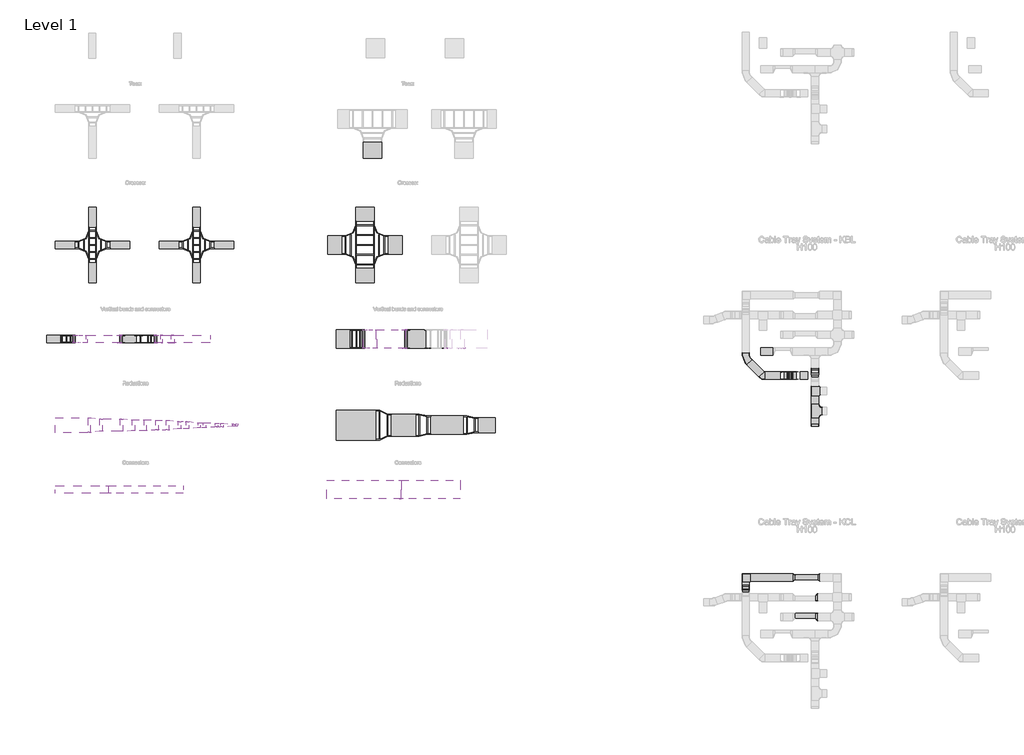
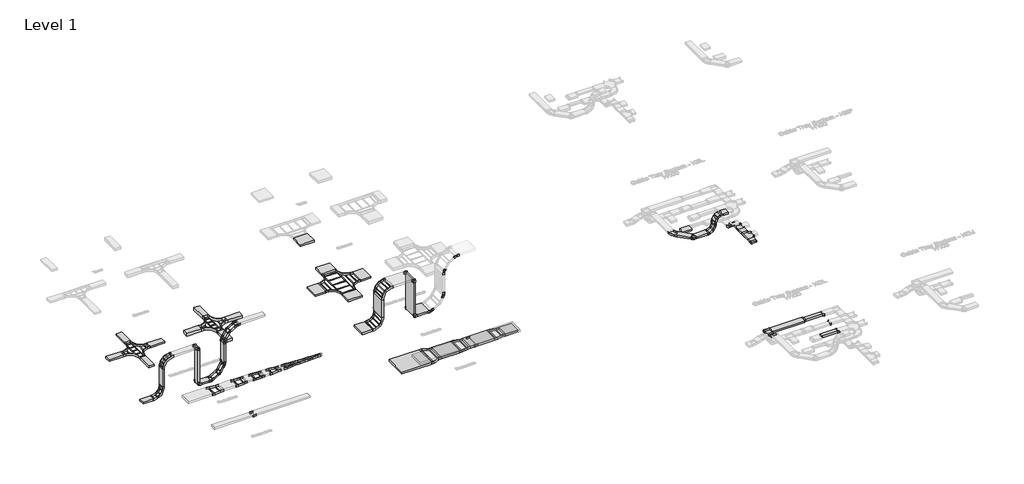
# One storey, part 21 of 106: 67 cable carrier fittings, 54 cable carrier segments.
"""IFC4 building model written with IfcOpenShell, lengths in millimetres."""

from ifc_helpers import new_model, si_unit, frame, origin, place, context, project, spatial, polyline, outline, extrude, transform, mapped, element, save
from components import cable_carrier_fitting_f33f8219, cable_carrier_fitting_39317766, cable_carrier_fitting_df6db4d9, cable_carrier_fitting_7434552b, cable_carrier_fitting_97db74c1, cable_carrier_fitting_00049439, cable_carrier_fitting_cb057536, cable_carrier_fitting_425c15d6, cable_carrier_fitting_a142babc, cable_carrier_fitting_4de00f68, cable_carrier_fitting_ece48d34, cable_carrier_fitting_d4f283aa, cable_carrier_fitting_389af67d, cable_carrier_fitting_ab346bf8, cable_carrier_fitting_c163f1ca, cable_carrier_fitting_32826c86, cable_carrier_fitting_42195290, cable_carrier_fitting_1d3f857e, cable_carrier_fitting_0afdfe74, cable_carrier_fitting_2d5aa353, cable_carrier_fitting_83230dc4, cable_carrier_fitting_3cbe9e62, cable_carrier_fitting_c86838e9, cable_carrier_fitting_985dcf24, cable_carrier_fitting_ca5a2d19, cable_carrier_fitting_d3670504, cable_carrier_fitting_b9b8e363, cable_carrier_fitting_e218c750, cable_carrier_fitting_26a6f095, cable_carrier_fitting_1055d29a, cable_carrier_fitting_ad9a9dc8, cable_carrier_fitting_d731d6d4, cable_carrier_fitting_22750d93, cable_carrier_fitting_6bd93874, cable_carrier_fitting_e1430108, cable_carrier_fitting_c6f54cfa, cable_carrier_fitting_92e6b0da, cable_carrier_fitting_f50788b4, cable_carrier_fitting_851eb94e

model = new_model("IFC4")

# Units and contexts
model_context = context("Model", 3, world=origin())
ifc_project = project(units=[si_unit("LENGTHUNIT", "METRE", prefix="MILLI")], contexts=[model_context])

# Site, building, storey
site = spatial("IfcSite", under=ifc_project)
building = spatial("IfcBuilding", under=site)
storey = spatial("IfcBuildingStorey", under=building, Name="Level 1", Elevation=0.0)

# Cable carrier fittings
placement = place(None, origin())
cable_carrier_fitting_shape = cable_carrier_fitting_f33f8219(model_context)
element("IfcCableCarrierFitting", 1, ObjectType="BAKS_LDLS_BEND_Adjustable vertical bend element_ELDS : ELDSP_H100", at=placement, inside=storey, context=model_context, shape_type="MappedRepresentation", body=[
    mapped(cable_carrier_fitting_shape, transform((132442.1548019, 56206.9805429, 55.0), x_axis=(0.8660254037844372, 0.0, 0.5000000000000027), y_axis=(0.0, 1.0, 0.0), z_axis=(-0.5000000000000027, 0.0, 0.8660254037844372))),
])
element("IfcCableCarrierFitting", 2, ObjectType="BAKS_LDLS_BEND_Adjustable vertical bend element_ELDS : ELDSP_H100", at=placement, inside=storey, context=model_context, shape_type="MappedRepresentation", body=[
    mapped(cable_carrier_fitting_shape, transform((133125.1675038, 56206.9805429, 738.0127019), x_axis=(-0.49999999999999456, 0.0, -0.8660254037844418), y_axis=(0.0, -1.0, 0.0), z_axis=(-0.8660254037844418, 0.0, 0.49999999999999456))),
])
element("IfcCableCarrierFitting", 3, ObjectType="BAKS_LDLS_BEND_Adjustable vertical bend element_ELDS : ELDSP_H100", at=placement, inside=storey, context=model_context, shape_type="MappedRepresentation", body=[
    mapped(cable_carrier_fitting_shape, transform((133125.1675038, 56206.9805429, 2053.6237578), x_axis=(0.5000000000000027, 0.0, 0.8660254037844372), y_axis=(0.0, -1.0, 0.0), z_axis=(0.8660254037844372, 0.0, -0.5000000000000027))),
])
element("IfcCableCarrierFitting", 4, ObjectType="BAKS_LDLS_BEND_Adjustable vertical bend element_ELDS : ELDSP_H100", at=placement, inside=storey, context=model_context, shape_type="MappedRepresentation", body=[
    mapped(cable_carrier_fitting_shape, transform((133808.1802057, 56206.9805429, 2736.6364597), x_axis=(-0.8660254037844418, 0.0, -0.49999999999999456), y_axis=(0.0, 1.0, 0.0), z_axis=(0.49999999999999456, 0.0, -0.8660254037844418))),
])
cable_carrier_fitting_2_shape = cable_carrier_fitting_39317766(model_context)
element("IfcCableCarrierFitting", 5, ObjectType="BAKS_LD_CROSS_Horizontal cross over_CZDV : CZDVP_H100", at=placement, inside=storey, context=model_context, shape_type="MappedRepresentation", body=[
    mapped(cable_carrier_fitting_2_shape, transform((130580.0391708, 60009.3740469, 55.0), x_axis=(0.0, -1.0, 0.0), y_axis=(1.0, 0.0, 0.0), z_axis=(0.0, 0.0, 1.0))),
])
cable_carrier_fitting_3_shape = cable_carrier_fitting_df6db4d9(model_context)
element("IfcCableCarrierFitting", 6, ObjectType="BAKS_LD_CROSS_Horizontal cross over_CZDV : CZDVP_H150", at=placement, inside=storey, context=model_context, shape_type="MappedRepresentation", body=[
    mapped(cable_carrier_fitting_3_shape, transform((134780.1043169, 60009.3740469, 55.0), x_axis=(0.0, -1.0, 0.0), y_axis=(1.0, 0.0, 0.0), z_axis=(0.0, 0.0, 1.0))),
])
cable_carrier_fitting_4_shape = cable_carrier_fitting_7434552b(model_context)
element("IfcCableCarrierFitting", 7, ObjectType="BAKS_LD_RED_Straight reducer_RDSV : RDSVP_H100", at=placement, inside=storey, context=model_context, shape_type="MappedRepresentation", body=[
    mapped(cable_carrier_fitting_4_shape, transform((133540.0391708, 52730.0357179, 2155.0), x_axis=(1.0, 0.0, 0.0), y_axis=(0.0, 1.0, 0.0), z_axis=(0.0, 0.0, 1.0))),
])
cable_carrier_fitting_5_shape = cable_carrier_fitting_97db74c1(model_context)
element("IfcCableCarrierFitting", 8, ObjectType="BAKS_LD_CONN_Straight connector_LDC : LDC_H100", at=placement, inside=storey, context=model_context, shape_type="MappedRepresentation", body=[
    mapped(cable_carrier_fitting_5_shape, transform((131230.0391708, 49980.0357179, 2155.0), x_axis=(1.0, 0.0, 0.0), y_axis=(0.0, 1.0, 0.0), z_axis=(0.0, 0.0, 1.0))),
])
element("IfcCableCarrierFitting", 9, ObjectType="BAKS_LD_CONN_Straight connector_LDC : LDC_H100", at=placement, inside=storey, context=model_context, shape_type="MappedRepresentation", body=[
    mapped(cable_carrier_fitting_5_shape, transform((143050.0391708, 49755.0357179, 2155.0), x_axis=(1.0, 0.0, 0.0), y_axis=(0.0, 1.0, 0.0), z_axis=(0.0, 0.0, 1.0))),
])
cable_carrier_fitting_6_shape = cable_carrier_fitting_00049439(model_context)
element("IfcCableCarrierFitting", 10, ObjectType="BAKS_LD_CONN_Straight connector_LDC : LDC_H100", at=placement, inside=storey, context=model_context, shape_type="MappedRepresentation", body=[
    mapped(cable_carrier_fitting_6_shape, transform((131230.0391708, 50280.0357179, 2155.0), x_axis=(1.0, 0.0, 0.0), y_axis=(0.0, 1.0, 0.0), z_axis=(0.0, 0.0, 1.0))),
])
element("IfcCableCarrierFitting", 11, ObjectType="BAKS_LD_CONN_Straight connector_LDC : LDC_H100", at=placement, inside=storey, context=model_context, shape_type="MappedRepresentation", body=[
    mapped(cable_carrier_fitting_6_shape, transform((143050.0391708, 50505.0357179, 2155.0), x_axis=(1.0, 0.0, 0.0), y_axis=(0.0, 1.0, 0.0), z_axis=(0.0, 0.0, 1.0))),
])
cable_carrier_fitting_7_shape = cable_carrier_fitting_cb057536(model_context)
element("IfcCableCarrierFitting", 12, ObjectType="BAKS_BEND_Adjustable vertical bend element_EL : ELP_H100", at=placement, inside=storey, context=model_context, shape_type="MappedRepresentation", body=[
    mapped(cable_carrier_fitting_7_shape, transform((158633.2340999, 54731.3714214, 322.7153903), x_axis=(0.4999999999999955, 0.0, 0.8660254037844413), y_axis=(0.0, 1.0, 0.0), z_axis=(-0.8660254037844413, 0.0, 0.4999999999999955))),
])
element("IfcCableCarrierFitting", 13, ObjectType="BAKS_BEND_Adjustable vertical bend element_EL : ELP_H100", at=placement, inside=storey, context=model_context, shape_type="MappedRepresentation", body=[
    mapped(cable_carrier_fitting_7_shape, transform((158436.5219776, 54731.3714214, 223.0), x_axis=(0.8660254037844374, 0.0, 0.5000000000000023), y_axis=(0.0, 1.0, 0.0), z_axis=(-0.5000000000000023, 0.0, 0.8660254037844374))),
])
element("IfcCableCarrierFitting", 14, ObjectType="BAKS_BEND_Adjustable vertical bend element_EL : ELP_H100", at=placement, inside=storey, context=model_context, shape_type="MappedRepresentation", body=[
    mapped(cable_carrier_fitting_7_shape, transform((158841.4494902, 54731.3714214, 936.9011537), x_axis=(0.8660254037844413, 0.0, 0.4999999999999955), y_axis=(0.0, -1.0, 0.0), z_axis=(0.4999999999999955, 0.0, -0.8660254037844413))),
])
element("IfcCableCarrierFitting", 15, ObjectType="BAKS_BEND_Adjustable vertical bend element_EL : ELP_H100", at=placement, inside=storey, context=model_context, shape_type="MappedRepresentation", body=[
    mapped(cable_carrier_fitting_7_shape, transform((158741.7340999, 54731.3714214, 740.1890314), x_axis=(0.5000000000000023, 0.0, 0.8660254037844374), y_axis=(0.0, -1.0, 0.0), z_axis=(0.8660254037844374, 0.0, -0.5000000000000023))),
])
cable_carrier_fitting_8_shape = cable_carrier_fitting_425c15d6(model_context)
element("IfcCableCarrierFitting", 16, ObjectType="BAKS_LD_BEND_Articulated connector_LGC : LGC_H100", at=placement, inside=storey, context=model_context, shape_type="MappedRepresentation", body=[
    mapped(cable_carrier_fitting_8_shape, transform((131725.1675038, 56356.9805429, 2155.0), x_axis=(1.0, 0.0, 0.0), y_axis=(0.0, 0.0, -1.0), z_axis=(0.0, 1.0, 0.0))),
])
element("IfcCableCarrierFitting", 17, ObjectType="BAKS_LD_BEND_Articulated connector_LGC : LGC_H100", at=placement, inside=storey, context=model_context, shape_type="MappedRepresentation", body=[
    mapped(cable_carrier_fitting_8_shape, transform((131725.1675038, 56056.9805429, 55.0), x_axis=(0.0, 0.0, -1.0), y_axis=(1.0, 0.0, 0.0), z_axis=(0.0, -1.0, 0.0))),
])
element("IfcCableCarrierFitting", 18, ObjectType="BAKS_LD_BEND_Articulated connector_LGC : LGC_H100", at=placement, inside=storey, context=model_context, shape_type="MappedRepresentation", body=[
    mapped(cable_carrier_fitting_8_shape, transform((143240.1675038, 56581.9805429, 2155.0), x_axis=(1.0, 0.0, 0.0), y_axis=(0.0, 0.0, -1.0), z_axis=(0.0, 1.0, 0.0))),
])
element("IfcCableCarrierFitting", 19, ObjectType="BAKS_LD_BEND_Articulated connector_LGC : LGC_H100", at=placement, inside=storey, context=model_context, shape_type="MappedRepresentation", body=[
    mapped(cable_carrier_fitting_8_shape, transform((143240.1675038, 55831.9805429, 55.0), x_axis=(0.0, 0.0, -1.0), y_axis=(1.0, 0.0, 0.0), z_axis=(0.0, -1.0, 0.0))),
])
cable_carrier_fitting_9_shape = cable_carrier_fitting_a142babc(model_context)
element("IfcCableCarrierFitting", 20, ObjectType="BAKS_LD_BEND_Articulated connector_LGC : LGC_H100", at=placement, inside=storey, context=model_context, shape_type="MappedRepresentation", body=[
    mapped(cable_carrier_fitting_9_shape, transform((131725.1675038, 56056.9805429, 2155.0), x_axis=(1.0, 0.0, 0.0), y_axis=(0.0, 0.0, 1.0), z_axis=(0.0, -1.0, 0.0))),
])
element("IfcCableCarrierFitting", 21, ObjectType="BAKS_LD_BEND_Articulated connector_LGC : LGC_H100", at=placement, inside=storey, context=model_context, shape_type="MappedRepresentation", body=[
    mapped(cable_carrier_fitting_9_shape, transform((131725.1675038, 56356.9805429, 55.0), x_axis=(0.0, 0.0, -1.0), y_axis=(-1.0, 0.0, 0.0), z_axis=(0.0, 1.0, 0.0))),
])
element("IfcCableCarrierFitting", 22, ObjectType="BAKS_LD_BEND_Articulated connector_LGC : LGC_H100", at=placement, inside=storey, context=model_context, shape_type="MappedRepresentation", body=[
    mapped(cable_carrier_fitting_9_shape, transform((143240.1675038, 55831.9805429, 2155.0), x_axis=(1.0, 0.0, 0.0), y_axis=(0.0, 0.0, 1.0), z_axis=(0.0, -1.0, 0.0))),
])
element("IfcCableCarrierFitting", 23, ObjectType="BAKS_LD_BEND_Articulated connector_LGC : LGC_H100", at=placement, inside=storey, context=model_context, shape_type="MappedRepresentation", body=[
    mapped(cable_carrier_fitting_9_shape, transform((143240.1675038, 56581.9805429, 55.0), x_axis=(0.0, 0.0, -1.0), y_axis=(-1.0, 0.0, 0.0), z_axis=(0.0, 1.0, 0.0))),
])
cable_carrier_fitting_10_shape = cable_carrier_fitting_4de00f68(model_context)
element("IfcCableCarrierFitting", 24, ObjectType="BAKS_LD_BEND_Articulated connector_LGC : LGC_H100", at=placement, inside=storey, context=model_context, shape_type="MappedRepresentation", body=[
    mapped(cable_carrier_fitting_10_shape, transform((132442.1548019, 56056.9805429, 55.0), x_axis=(1.0, 0.0, 0.0), y_axis=(0.0, 0.0, 1.0), z_axis=(0.0, -1.0, 0.0))),
])
element("IfcCableCarrierFitting", 25, ObjectType="BAKS_LD_BEND_Articulated connector_LGC : LGC_H100", at=placement, inside=storey, context=model_context, shape_type="MappedRepresentation", body=[
    mapped(cable_carrier_fitting_10_shape, transform((133125.1675038, 56056.9805429, 738.0127019), x_axis=(0.49999999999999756, 0.0, 0.8660254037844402), y_axis=(-0.8660254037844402, 0.0, 0.49999999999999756), z_axis=(0.0, -1.0, 0.0))),
])
element("IfcCableCarrierFitting", 26, ObjectType="BAKS_LD_BEND_Articulated connector_LGC : LGC_H100", at=placement, inside=storey, context=model_context, shape_type="MappedRepresentation", body=[
    mapped(cable_carrier_fitting_10_shape, transform((133125.1675038, 56356.9805429, 2053.6237578), x_axis=(0.0, 0.0, 1.0), y_axis=(1.0, 0.0, 0.0), z_axis=(0.0, 1.0, 0.0))),
])
element("IfcCableCarrierFitting", 27, ObjectType="BAKS_LD_BEND_Articulated connector_LGC : LGC_H100", at=placement, inside=storey, context=model_context, shape_type="MappedRepresentation", body=[
    mapped(cable_carrier_fitting_10_shape, transform((133808.1802057, 56356.9805429, 2736.6364597), x_axis=(0.8660254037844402, 0.0, 0.49999999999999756), y_axis=(0.49999999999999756, 0.0, -0.8660254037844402), z_axis=(0.0, 1.0, 0.0))),
])
element("IfcCableCarrierFitting", 28, ObjectType="BAKS_LD_BEND_Articulated connector_LGC : LGC_H100", at=placement, inside=storey, context=model_context, shape_type="MappedRepresentation", body=[
    mapped(cable_carrier_fitting_10_shape, transform((144142.1548019, 55831.9805429, 55.0), x_axis=(1.0, 0.0, 0.0), y_axis=(0.0, 0.0, 1.0), z_axis=(0.0, -1.0, 0.0))),
])
element("IfcCableCarrierFitting", 29, ObjectType="BAKS_LD_BEND_Articulated connector_LGC : LGC_H100", at=placement, inside=storey, context=model_context, shape_type="MappedRepresentation", body=[
    mapped(cable_carrier_fitting_10_shape, transform((144825.1675038, 55831.9805429, 738.0127019), x_axis=(0.49999999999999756, 0.0, 0.8660254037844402), y_axis=(-0.8660254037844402, 0.0, 0.49999999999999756), z_axis=(0.0, -1.0, 0.0))),
])
cable_carrier_fitting_11_shape = cable_carrier_fitting_ece48d34(model_context)
element("IfcCableCarrierFitting", 30, ObjectType="BAKS_LD_BEND_Articulated connector_LGC : LGC_H100", at=placement, inside=storey, context=model_context, shape_type="MappedRepresentation", body=[
    mapped(cable_carrier_fitting_11_shape, transform((133125.1675038, 56356.9805429, 738.0127019), x_axis=(0.49999999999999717, 0.0, 0.8660254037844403), y_axis=(0.8660254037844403, 0.0, -0.49999999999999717), z_axis=(0.0, 1.0, 0.0))),
])
element("IfcCableCarrierFitting", 31, ObjectType="BAKS_LD_BEND_Articulated connector_LGC : LGC_H100", at=placement, inside=storey, context=model_context, shape_type="MappedRepresentation", body=[
    mapped(cable_carrier_fitting_11_shape, transform((132442.1548019, 56356.9805429, 55.0), x_axis=(1.0, 0.0, 0.0), y_axis=(0.0, 0.0, -1.0), z_axis=(0.0, 1.0, 0.0))),
])
element("IfcCableCarrierFitting", 32, ObjectType="BAKS_LD_BEND_Articulated connector_LGC : LGC_H100", at=placement, inside=storey, context=model_context, shape_type="MappedRepresentation", body=[
    mapped(cable_carrier_fitting_11_shape, transform((133808.1802057, 56056.9805429, 2736.6364597), x_axis=(0.8660254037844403, 0.0, 0.49999999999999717), y_axis=(-0.49999999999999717, 0.0, 0.8660254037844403), z_axis=(0.0, -1.0, 0.0))),
])
element("IfcCableCarrierFitting", 33, ObjectType="BAKS_LD_BEND_Articulated connector_LGC : LGC_H100", at=placement, inside=storey, context=model_context, shape_type="MappedRepresentation", body=[
    mapped(cable_carrier_fitting_11_shape, transform((133125.1675038, 56056.9805429, 2053.6237578), x_axis=(0.0, 0.0, 1.0), y_axis=(-1.0, 0.0, 0.0), z_axis=(0.0, -1.0, 0.0))),
])
element("IfcCableCarrierFitting", 34, ObjectType="BAKS_LD_BEND_Articulated connector_LGC : LGC_H100", at=placement, inside=storey, context=model_context, shape_type="MappedRepresentation", body=[
    mapped(cable_carrier_fitting_11_shape, transform((145508.1802057, 55831.9805429, 2736.6364597), x_axis=(0.8660254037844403, 0.0, 0.4999999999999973), y_axis=(-0.4999999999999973, 0.0, 0.8660254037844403), z_axis=(0.0, -1.0, 0.0))),
])
element("IfcCableCarrierFitting", 35, ObjectType="BAKS_LD_BEND_Articulated connector_LGC : LGC_H100", at=placement, inside=storey, context=model_context, shape_type="MappedRepresentation", body=[
    mapped(cable_carrier_fitting_11_shape, transform((144825.1675038, 55831.9805429, 2053.6237578), x_axis=(0.0, 0.0, 1.0), y_axis=(-1.0, 0.0, 0.0), z_axis=(0.0, -1.0, 0.0))),
])
cable_carrier_fitting_12_shape = cable_carrier_fitting_d4f283aa(model_context)
element("IfcCableCarrierFitting", 36, ObjectType="BAKS_Reducer : RK(S/L/P)J_H100", at=placement, inside=storey, context=model_context, shape_type="MappedRepresentation", body=[
    mapped(cable_carrier_fitting_12_shape, transform((159753.8329462, 52694.2974728, 432.5277378), x_axis=(0.0, 1.0, 0.0), y_axis=(-1.0, 0.0, 0.0), z_axis=(0.0, 0.0, 1.0))),
])
cable_carrier_fitting_13_shape = cable_carrier_fitting_389af67d(model_context)
element("IfcCableCarrierFitting", 37, ObjectType="BAKS_Reducer : RK(S/L/P)J_H100", at=placement, inside=storey, context=model_context, shape_type="MappedRepresentation", body=[
    mapped(cable_carrier_fitting_13_shape, transform((158856.8329462, 46580.8714214, 0.0), x_axis=(1.0, 0.0, 0.0), y_axis=(0.0, 1.0, 0.0), z_axis=(0.0, 0.0, 1.0))),
])
cable_carrier_fitting_14_shape = cable_carrier_fitting_ab346bf8(model_context)
element("IfcCableCarrierFitting", 38, ObjectType="BAKS_Reducer : RK(S/L/P)J_H100", at=placement, inside=storey, context=model_context, shape_type="MappedRepresentation", body=[
    mapped(cable_carrier_fitting_14_shape, transform((159856.8329462, 46580.8714214, 0.0), x_axis=(1.0, 0.0, 0.0), y_axis=(0.0, 1.0, 0.0), z_axis=(0.0, 0.0, 1.0))),
])
cable_carrier_fitting_15_shape = cable_carrier_fitting_c163f1ca(model_context)
element("IfcCableCarrierFitting", 39, ObjectType="BAKS_Reducer : RK(S/L/P)J_H100", at=placement, inside=storey, context=model_context, shape_type="MappedRepresentation", body=[
    mapped(cable_carrier_fitting_15_shape, transform((159761.8329462, 45730.8714214, 0.0), x_axis=(1.0, 0.0, 0.0), y_axis=(0.0, 1.0, 0.0), z_axis=(0.0, 0.0, 1.0))),
])
cable_carrier_fitting_16_shape = cable_carrier_fitting_32826c86(model_context)
element("IfcCableCarrierFitting", 40, ObjectType="BAKS_Reducer : RK(S/L/P)J_H100", at=placement, inside=storey, context=model_context, shape_type="MappedRepresentation", body=[
    mapped(cable_carrier_fitting_16_shape, transform((159761.8329462, 45030.8714214, 0.0), x_axis=(1.0, 0.0, 0.0), y_axis=(0.0, 1.0, 0.0), z_axis=(0.0, 0.0, 1.0))),
])
cable_carrier_fitting_17_shape = cable_carrier_fitting_42195290(model_context)
element("IfcCableCarrierFitting", 41, ObjectType="BAKS_Horizontal bend : KKJ/KKMJ_H100", at=placement, inside=storey, context=model_context, shape_type="MappedRepresentation", body=[
    mapped(cable_carrier_fitting_17_shape, transform((156956.8329462, 46580.8714214, 0.0), x_axis=(-1.0, 0.0, 0.0), y_axis=(0.0, -1.0, 0.0), z_axis=(0.0, 0.0, 1.0))),
])
cable_carrier_fitting_18_shape = cable_carrier_fitting_1d3f857e(model_context)
element("IfcCableCarrierFitting", 42, ObjectType="BAKS_Horizontal bend radius : KKPJ/KKMPJ_H100", at=placement, inside=storey, context=model_context, shape_type="MappedRepresentation", body=[
    mapped(cable_carrier_fitting_18_shape, transform((156956.8329462, 55430.8714214, 235.0), x_axis=(0.0, -1.0, 0.0), y_axis=(1.0, 0.0, 0.0), z_axis=(0.0, 0.0, 1.0))),
])
cable_carrier_fitting_19_shape = cable_carrier_fitting_0afdfe74(model_context)
element("IfcCableCarrierFitting", 43, ObjectType="BAKS_Horizontal tee : TKJ_H100", at=placement, inside=storey, context=model_context, shape_type="MappedRepresentation", body=[
    mapped(cable_carrier_fitting_19_shape, transform((159753.8329462, 54103.8631068, 432.5277378), x_axis=(0.0, 1.0, 0.0), y_axis=(-1.0, 0.0, 0.0), z_axis=(0.0, 0.0, 1.0))),
])
cable_carrier_fitting_20_shape = cable_carrier_fitting_2d5aa353(model_context)
element("IfcCableCarrierFitting", 44, ObjectType="BAKS_BEND_Articulated connector_LGP : LGP_H100", at=placement, inside=storey, context=model_context, shape_type="MappedRepresentation", body=[
    mapped(cable_carrier_fitting_20_shape, transform((158457.3065873, 54581.3714214, 235.0), x_axis=(1.0, 0.0, 0.0), y_axis=(0.0, 0.0, 1.0), z_axis=(0.0, -1.0, 0.0))),
])
element("IfcCableCarrierFitting", 45, ObjectType="BAKS_BEND_Articulated connector_LGP : LGP_H100", at=placement, inside=storey, context=model_context, shape_type="MappedRepresentation", body=[
    mapped(cable_carrier_fitting_20_shape, transform((158753.7340999, 54881.3714214, 760.9736411), x_axis=(0.0, 0.0, 1.0), y_axis=(1.0, 0.0, 0.0), z_axis=(0.0, 1.0, 0.0))),
])
cable_carrier_fitting_21_shape = cable_carrier_fitting_83230dc4(model_context)
element("IfcCableCarrierFitting", 46, ObjectType="BAKS_BEND_Articulated connector_LGP : LGP_H100", at=placement, inside=storey, context=model_context, shape_type="MappedRepresentation", body=[
    mapped(cable_carrier_fitting_21_shape, transform((158753.7340999, 54581.3714214, 531.4275126), x_axis=(0.4999999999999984, 0.0, 0.8660254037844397), y_axis=(-0.8660254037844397, 0.0, 0.4999999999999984), z_axis=(0.0, -1.0, 0.0))),
])
cable_carrier_fitting_22_shape = cable_carrier_fitting_3cbe9e62(model_context)
element("IfcCableCarrierFitting", 47, ObjectType="BAKS_BEND_Articulated connector_LGP : LGP_H100", at=placement, inside=storey, context=model_context, shape_type="MappedRepresentation", body=[
    mapped(cable_carrier_fitting_22_shape, transform((158753.7340999, 54881.3714214, 531.4275126), x_axis=(0.4999999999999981, 0.0, 0.8660254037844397), y_axis=(0.8660254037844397, 0.0, -0.4999999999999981), z_axis=(0.0, 1.0, 0.0))),
])
cable_carrier_fitting_23_shape = cable_carrier_fitting_c86838e9(model_context)
element("IfcCableCarrierFitting", 48, ObjectType="BAKS_BEND_Articulated connector_LGP : LGP_H100", at=placement, inside=storey, context=model_context, shape_type="MappedRepresentation", body=[
    mapped(cable_carrier_fitting_23_shape, transform((158457.3065873, 54881.3714214, 235.0), x_axis=(1.0, 0.0, 0.0), y_axis=(0.0, 0.0, -1.0), z_axis=(0.0, 1.0, 0.0))),
])
element("IfcCableCarrierFitting", 49, ObjectType="BAKS_BEND_Articulated connector_LGP : LGP_H100", at=placement, inside=storey, context=model_context, shape_type="MappedRepresentation", body=[
    mapped(cable_carrier_fitting_23_shape, transform((158753.7340999, 54581.3714214, 760.9736411), x_axis=(0.0, 0.0, 1.0), y_axis=(-1.0, 0.0, 0.0), z_axis=(0.0, -1.0, 0.0))),
])
cable_carrier_fitting_24_shape = cable_carrier_fitting_985dcf24(model_context)
element("IfcCableCarrierFitting", 50, ObjectType="BAKS_Horizontal bend : KKJ/KKMJ_H100", at=placement, inside=storey, context=model_context, shape_type="MappedRepresentation", body=[
    mapped(cable_carrier_fitting_24_shape, transform((157656.3329462, 54731.3714214, 235.0), x_axis=(0.707106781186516, -0.707106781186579, 0.0), y_axis=(0.707106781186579, 0.707106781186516, 0.0), z_axis=(0.0, 0.0, 1.0))),
])
cable_carrier_fitting_25_shape = cable_carrier_fitting_ca5a2d19(model_context)
element("IfcCableCarrierFitting", 51, ObjectType="BAKS_Horizontal tee radius : TKPJ_H100", at=placement, inside=storey, context=model_context, shape_type="MappedRepresentation", body=[
    mapped(cable_carrier_fitting_25_shape, transform((159753.8329462, 53296.5802898, 432.5277378), x_axis=(0.0, 1.0, 0.0), y_axis=(-1.0, 0.0, 0.0), z_axis=(0.0, 0.0, 1.0))),
])
cable_carrier_fitting_26_shape = cable_carrier_fitting_d3670504(model_context)
element("IfcCableCarrierFitting", 52, ObjectType="BAKS_LD_RED_Straight reducer_RDSV : RDSVP_H100", at=placement, inside=storey, context=model_context, shape_type="MappedRepresentation", body=[
    mapped(cable_carrier_fitting_26_shape, transform((130380.0391708, 52730.0357179, 2155.0), x_axis=(1.0, 0.0, 0.0), y_axis=(0.0, 1.0, 0.0), z_axis=(0.0, 0.0, 1.0))),
])
cable_carrier_fitting_27_shape = cable_carrier_fitting_b9b8e363(model_context)
element("IfcCableCarrierFitting", 53, ObjectType="BAKS_LD_RED_Straight reducer_RDSV : RDSVP_H100", at=placement, inside=storey, context=model_context, shape_type="MappedRepresentation", body=[
    mapped(cable_carrier_fitting_27_shape, transform((132300.0391708, 52730.0357179, 2155.0), x_axis=(-1.0, 0.0, 0.0), y_axis=(0.0, -1.0, 0.0), z_axis=(0.0, 0.0, 1.0))),
])
cable_carrier_fitting_28_shape = cable_carrier_fitting_e218c750(model_context)
element("IfcCableCarrierFitting", 54, ObjectType="BAKS_LD_RED_Straight reducer_RDSV : RDSVP_H100", at=placement, inside=storey, context=model_context, shape_type="MappedRepresentation", body=[
    mapped(cable_carrier_fitting_28_shape, transform((132640.0391708, 52730.0357179, 2155.0), x_axis=(1.0, 0.0, 0.0), y_axis=(0.0, 1.0, 0.0), z_axis=(0.0, 0.0, 1.0))),
])
cable_carrier_fitting_29_shape = cable_carrier_fitting_26a6f095(model_context)
element("IfcCableCarrierFitting", 55, ObjectType="BAKS_LD_RED_Straight reducer_RDSV : RDSVP_H100", at=placement, inside=storey, context=model_context, shape_type="MappedRepresentation", body=[
    mapped(cable_carrier_fitting_29_shape, transform((134340.0391708, 52730.0357179, 2155.0), x_axis=(1.0, 0.0, 0.0), y_axis=(0.0, 1.0, 0.0), z_axis=(0.0, 0.0, 1.0))),
])
cable_carrier_fitting_30_shape = cable_carrier_fitting_1055d29a(model_context)
element("IfcCableCarrierFitting", 56, ObjectType="BAKS_LD_RED_Straight reducer_RDSV : RDSVP_H100", at=placement, inside=storey, context=model_context, shape_type="MappedRepresentation", body=[
    mapped(cable_carrier_fitting_30_shape, transform((135040.0391708, 52730.0357179, 2155.0), x_axis=(1.0, 0.0, 0.0), y_axis=(0.0, 1.0, 0.0), z_axis=(0.0, 0.0, 1.0))),
])
cable_carrier_fitting_31_shape = cable_carrier_fitting_ad9a9dc8(model_context)
element("IfcCableCarrierFitting", 57, ObjectType="BAKS_LD_RED_Straight reducer_RDSV : RDSVP_H100", at=placement, inside=storey, context=model_context, shape_type="MappedRepresentation", body=[
    mapped(cable_carrier_fitting_31_shape, transform((135740.0391708, 52730.0357179, 2155.0), x_axis=(1.0, 0.0, 0.0), y_axis=(0.0, 1.0, 0.0), z_axis=(0.0, 0.0, 1.0))),
])
cable_carrier_fitting_32_shape = cable_carrier_fitting_d731d6d4(model_context)
element("IfcCableCarrierFitting", 58, ObjectType="BAKS_LD_RED_Straight reducer_RDSV : RDSVC_H100", at=placement, inside=storey, context=model_context, shape_type="MappedRepresentation", body=[
    mapped(cable_carrier_fitting_32_shape, transform((142025.1675038, 52730.0357179, 55.0), x_axis=(1.0, 0.0, 0.0), y_axis=(0.0, 1.0, 0.0), z_axis=(0.0, 0.0, 1.0))),
])
cable_carrier_fitting_33_shape = cable_carrier_fitting_22750d93(model_context)
element("IfcCableCarrierFitting", 59, ObjectType="BAKS_LD_RED_Straight reducer_RDSV : RDSVC_H100", at=placement, inside=storey, context=model_context, shape_type="MappedRepresentation", body=[
    mapped(cable_carrier_fitting_33_shape, transform((143625.1675038, 52730.0357179, 55.0), x_axis=(1.0, 0.0, 0.0), y_axis=(0.0, 1.0, 0.0), z_axis=(0.0, 0.0, 1.0))),
])
cable_carrier_fitting_34_shape = cable_carrier_fitting_6bd93874(model_context)
element("IfcCableCarrierFitting", 60, ObjectType="BAKS_LD_RED_Straight reducer_RDSV : RDSVC_H100", at=placement, inside=storey, context=model_context, shape_type="MappedRepresentation", body=[
    mapped(cable_carrier_fitting_34_shape, transform((145545.1675038, 52730.0357179, 55.0), x_axis=(1.0, 0.0, 0.0), y_axis=(0.0, 1.0, 0.0), z_axis=(0.0, 0.0, 1.0))),
])
cable_carrier_fitting_35_shape = cable_carrier_fitting_e1430108(model_context)
element("IfcCableCarrierFitting", 61, ObjectType="BAKS_LD_BEND_Vertical bend 90deg internal_LPDWV : LPDWVP_H100", at=placement, inside=storey, context=model_context, shape_type="MappedRepresentation", body=[
    mapped(cable_carrier_fitting_35_shape, transform((129825.1675038, 56206.9805429, 55.0), x_axis=(1.0, 0.0, 0.0), y_axis=(0.0, 0.0, 1.0), z_axis=(0.0, -1.0, 0.0))),
])
cable_carrier_fitting_36_shape = cable_carrier_fitting_c6f54cfa(model_context)
element("IfcCableCarrierFitting", 62, ObjectType="BAKS_LD_BEND_Vertical bend 90deg internal_LPDWV : LPDWVC_H100", at=placement, inside=storey, context=model_context, shape_type="MappedRepresentation", body=[
    mapped(cable_carrier_fitting_36_shape, transform((141525.1675038, 56206.9805429, 55.0), x_axis=(0.0, 0.0, -1.0), y_axis=(-1.0, 0.0, 0.0), z_axis=(0.0, 1.0, 0.0))),
])
element("IfcCableCarrierFitting", 63, ObjectType="BAKS_LD_BEND_Vertical bend 90deg external_LPDZV : LPDZVP_H100", at=placement, inside=storey, context=model_context, shape_type="MappedRepresentation", body=[
    mapped(cable_carrier_fitting_35_shape, transform((129825.1675038, 56206.9805429, 2155.0), x_axis=(0.0, 0.0, 1.0), y_axis=(1.0, 0.0, 0.0), z_axis=(0.0, 1.0, 0.0))),
])
element("IfcCableCarrierFitting", 64, ObjectType="BAKS_LD_BEND_Vertical bend 90deg external_LPDZV : LPDZVC_H100", at=placement, inside=storey, context=model_context, shape_type="MappedRepresentation", body=[
    mapped(cable_carrier_fitting_36_shape, transform((141525.1675038, 56206.9805429, 2155.0), x_axis=(0.0, 0.0, 1.0), y_axis=(1.0, 0.0, 0.0), z_axis=(0.0, 1.0, 0.0))),
])
cable_carrier_fitting_37_shape = cable_carrier_fitting_92e6b0da(model_context)
element("IfcCableCarrierFitting", 65, ObjectType="BAKS_LD_CROSS_Horizontal cross over_CZDV : CZDVC_H100", at=placement, inside=storey, context=model_context, shape_type="MappedRepresentation", body=[
    mapped(cable_carrier_fitting_37_shape, transform((141580.0391708, 60009.3740469, 55.0), x_axis=(0.0, -1.0, 0.0), y_axis=(1.0, 0.0, 0.0), z_axis=(0.0, 0.0, 1.0))),
])
cable_carrier_fitting_38_shape = cable_carrier_fitting_f50788b4(model_context)
element("IfcCableCarrierFitting", 66, ObjectType="BAKS_KK_Vertical bend EXTERNAL_LU : LUMNJ_H100", at=placement, inside=storey, context=model_context, shape_type="MappedRepresentation", body=[
    mapped(cable_carrier_fitting_38_shape, transform((159753.8329462, 54858.7056523, 0.0), x_axis=(0.0, -1.0, 0.0), y_axis=(0.0, 0.0, 1.0), z_axis=(-1.0, 0.0, 0.0))),
])
cable_carrier_fitting_39_shape = cable_carrier_fitting_851eb94e(model_context)
element("IfcCableCarrierFitting", 67, ObjectType="BAKS_KK_Vertical bend EXTERNAL_LU : LUMNJ_H100", at=placement, inside=storey, context=model_context, shape_type="MappedRepresentation", body=[
    mapped(cable_carrier_fitting_39_shape, transform((156956.8329462, 46160.8714214, 0.0), x_axis=(0.0, -1.0, 0.0), y_axis=(0.0, 0.0, 1.0), z_axis=(-1.0, 0.0, 0.0))),
])

# Cable carrier segments
element("IfcCableCarrierSegment", 68, ObjectType="BAKS - Ladder H100 (DUVP)", at=placement, inside=storey, context=model_context, shape_type="SweptSolid", body=[
    extrude(outline(polyline([(130430.0391708, 59289.3740469), (130730.0391708, 59289.3740469), (130730.0391708, 58489.3740469), (130430.0391708, 58489.3740469), (130430.0391708, 59289.3740469)])), frame((0.0, 0.0, 5.0), z_axis=(0.0, 0.0, 1.0), x_axis=(1.0, 0.0, 0.0)), (0.0, 0.0, 1.0), 100.0),
])
element("IfcCableCarrierSegment", 69, ObjectType="BAKS - Ladder H100 (DUVP)", at=placement, inside=storey, context=model_context, shape_type="SweptSolid", body=[
    extrude(outline(polyline([(129860.0391708, 60159.3740469), (129860.0391708, 59859.3740469), (129080.0391708, 59859.3740469), (129080.0391708, 60159.3740469), (129860.0391708, 60159.3740469)])), frame((0.0, 0.0, 5.0), z_axis=(0.0, 0.0, 1.0), x_axis=(1.0, 0.0, 0.0)), (0.0, 0.0, 1.0), 100.0),
])
element("IfcCableCarrierSegment", 70, ObjectType="BAKS - Ladder H100 (DUVP)", at=placement, inside=storey, context=model_context, shape_type="SweptSolid", body=[
    extrude(outline(polyline([(130430.0391708, 61529.3740469), (130730.0391708, 61529.3740469), (130730.0391708, 60729.3740469), (130430.0391708, 60729.3740469), (130430.0391708, 61529.3740469)])), frame((0.0, 0.0, 5.0), z_axis=(0.0, 0.0, 1.0), x_axis=(1.0, 0.0, 0.0)), (0.0, 0.0, 1.0), 100.0),
])
element("IfcCableCarrierSegment", 71, ObjectType="BAKS - Ladder H100 (DUVP)", at=placement, inside=storey, context=model_context, shape_type="SweptSolid", body=[
    extrude(outline(polyline([(131300.0391708, 59859.3740469), (131300.0391708, 60159.3740469), (132080.0391708, 60159.3740469), (132080.0391708, 59859.3740469), (131300.0391708, 59859.3740469)])), frame((0.0, 0.0, 5.0), z_axis=(0.0, 0.0, 1.0), x_axis=(1.0, 0.0, 0.0)), (0.0, 0.0, 1.0), 100.0),
])
element("IfcCableCarrierSegment", 72, ObjectType="BAKS - Ladder H150 (DUVP)", at=placement, inside=storey, context=model_context, shape_type="SweptSolid", body=[
    extrude(outline(polyline([(135500.1043169, 59859.3740469), (135500.1043169, 60159.3740469), (136280.1043169, 60159.3740469), (136280.1043169, 59859.3740469), (135500.1043169, 59859.3740469)])), frame((0.0, 0.0, -20.0), z_axis=(0.0, 0.0, 1.0), x_axis=(1.0, 0.0, 0.0)), (0.0, 0.0, 1.0), 150.0),
])
element("IfcCableCarrierSegment", 73, ObjectType="BAKS - Ladder H150 (DUVP)", at=placement, inside=storey, context=model_context, shape_type="SweptSolid", body=[
    extrude(outline(polyline([(134060.1043169, 60159.3740469), (134060.1043169, 59859.3740469), (133280.1043169, 59859.3740469), (133280.1043169, 60159.3740469), (134060.1043169, 60159.3740469)])), frame((0.0, 0.0, -20.0), z_axis=(0.0, 0.0, 1.0), x_axis=(1.0, 0.0, 0.0)), (0.0, 0.0, 1.0), 150.0),
])
element("IfcCableCarrierSegment", 74, ObjectType="BAKS - Ladder H150 (DUVP)", at=placement, inside=storey, context=model_context, shape_type="SweptSolid", body=[
    extrude(outline(polyline([(134930.1043169, 60729.3740469), (134630.1043169, 60729.3740469), (134630.1043169, 61529.3740469), (134930.1043169, 61529.3740469), (134930.1043169, 60729.3740469)])), frame((0.0, 0.0, -20.0), z_axis=(0.0, 0.0, 1.0), x_axis=(1.0, 0.0, 0.0)), (0.0, 0.0, 1.0), 150.0),
])
element("IfcCableCarrierSegment", 75, ObjectType="BAKS - Ladder H150 (DUVP)", at=placement, inside=storey, context=model_context, shape_type="SweptSolid", body=[
    extrude(outline(polyline([(134930.1043169, 58489.3740469), (134630.1043169, 58489.3740469), (134630.1043169, 59289.3740469), (134930.1043169, 59289.3740469), (134930.1043169, 58489.3740469)])), frame((0.0, 0.0, -20.0), z_axis=(0.0, 0.0, 1.0), x_axis=(1.0, 0.0, 0.0)), (0.0, 0.0, 1.0), 150.0),
])
element("IfcCableCarrierSegment", 76, ObjectType="BAKS - Ladder H100 (DUVP)", at=placement, inside=storey, context=model_context, shape_type="SweptSolid", body=[
    extrude(outline(polyline([(128725.1675038, 56056.9805429), (128725.1675038, 56356.9805429), (129270.1675038, 56356.9805429), (129270.1675038, 56056.9805429), (128725.1675038, 56056.9805429)])), frame((0.0, 0.0, 5.0), z_axis=(0.0, 0.0, 1.0), x_axis=(1.0, 0.0, 0.0)), (0.0, 0.0, 1.0), 100.0),
])
element("IfcCableCarrierSegment", 77, ObjectType="BAKS - Ladder H100 (DUVP)", at=placement, inside=storey, context=model_context, shape_type="SweptSolid", body=[
    extrude(outline(polyline([(129875.1675038, 56056.9805429), (129775.1675038, 56056.9805429), (129775.1675038, 56356.9805429), (129875.1675038, 56356.9805429), (129875.1675038, 56056.9805429)])), frame((0.0, 0.0, 610.0), z_axis=(0.0, 0.0, 1.0), x_axis=(1.0, 0.0, 0.0)), (0.0, 0.0, 1.0), 990.0),
])
element("IfcCableCarrierSegment", 78, ObjectType="BAKS - Ladder H100 (DUVP)", at=placement, inside=storey, context=model_context, shape_type="SweptSolid", body=[
    extrude(outline(polyline([(130380.1675038, 56056.9805429), (130380.1675038, 56356.9805429), (131700.1675038, 56356.9805429), (131700.1675038, 56056.9805429), (130380.1675038, 56056.9805429)])), frame((0.0, 0.0, 2105.0), z_axis=(0.0, 0.0, 1.0), x_axis=(1.0, 0.0, 0.0)), (0.0, 0.0, 1.0), 100.0),
])
element("IfcCableCarrierSegment", 79, ObjectType="BAKS - Ladder H100 (DUVP)", at=placement, inside=storey, context=model_context, shape_type="SweptSolid", body=[
    extrude(outline(polyline([(131675.1675038, 56056.9805429), (131675.1675038, 56356.9805429), (131775.1675038, 56356.9805429), (131775.1675038, 56056.9805429), (131675.1675038, 56056.9805429)])), frame((0.0, 0.0, 80.0), z_axis=(0.0, 0.0, 1.0), x_axis=(1.0, 0.0, 0.0)), (0.0, 0.0, 1.0), 2050.0),
])
element("IfcCableCarrierSegment", 80, ObjectType="BAKS - Ladder H100 (DUVP)", at=placement, inside=storey, context=model_context, shape_type="SweptSolid", body=[
    extrude(outline(polyline([(131750.1675038, 56056.9805429), (131750.1675038, 56356.9805429), (132342.1548019, 56356.9805429), (132342.1548019, 56056.9805429), (131750.1675038, 56056.9805429)])), frame((0.0, 0.0, 5.0), z_axis=(0.0, 0.0, 1.0), x_axis=(1.0, 0.0, 0.0)), (0.0, 0.0, 1.0), 100.0),
])
element("IfcCableCarrierSegment", 81, ObjectType="BAKS - Ladder H100 (DUVP)", at=placement, inside=storey, context=model_context, shape_type="SweptSolid", body=[
    extrude(outline(polyline([(133175.1675038, 56056.9805429), (133075.1675038, 56056.9805429), (133075.1675038, 56356.9805429), (133175.1675038, 56356.9805429), (133175.1675038, 56056.9805429)])), frame((0.0, 0.0, 838.0127019), z_axis=(0.0, 0.0, 1.0), x_axis=(1.0, 0.0, 0.0)), (0.0, 0.0, 1.0), 1115.6110559),
])
element("IfcCableCarrierSegment", 82, ObjectType="BAKS - Ladder H100 (DUVP)", at=placement, inside=storey, context=model_context, shape_type="SweptSolid", body=[
    extrude(outline(polyline([(133908.1802057, 56056.9805429), (133908.1802057, 56356.9805429), (135325.1675038, 56356.9805429), (135325.1675038, 56056.9805429), (133908.1802057, 56056.9805429)])), frame((0.0, 0.0, 2686.6364597), z_axis=(0.0, 0.0, 1.0), x_axis=(1.0, 0.0, 0.0)), (0.0, 0.0, 1.0), 100.0),
])
element("IfcCableCarrierSegment", 83, ObjectType="BAKS - Ladder H100 (DUVP)", at=placement, inside=storey, context=model_context, shape_type="SweptSolid", body=[
    extrude(outline(polyline([(129080.0391708, 52430.0357179), (129080.0391708, 53030.0357179), (130380.0391708, 53030.0357179), (130380.0391708, 52430.0357179), (129080.0391708, 52430.0357179)])), frame((0.0, 0.0, 2105.0), z_axis=(0.0, 0.0, 1.0), x_axis=(1.0, 0.0, 0.0)), (0.0, 0.0, 1.0), 100.0),
])
element("IfcCableCarrierSegment", 84, ObjectType="BAKS - Ladder H100 (DUVP)", at=placement, inside=storey, context=model_context, shape_type="SweptSolid", body=[
    extrude(outline(polyline([(131000.0391708, 52480.0357179), (131000.0391708, 52980.0357179), (131680.0391708, 52980.0357179), (131680.0391708, 52480.0357179), (131000.0391708, 52480.0357179)])), frame((0.0, 0.0, 2105.0), z_axis=(0.0, 0.0, 1.0), x_axis=(1.0, 0.0, 0.0)), (0.0, 0.0, 1.0), 100.0),
])
element("IfcCableCarrierSegment", 85, ObjectType="BAKS - Ladder H100 (DUVP)", at=placement, inside=storey, context=model_context, shape_type="SweptSolid", body=[
    extrude(outline(polyline([(132300.0391708, 52505.0357179), (132300.0391708, 52955.0357179), (132640.0391708, 52955.0357179), (132640.0391708, 52505.0357179), (132300.0391708, 52505.0357179)])), frame((0.0, 0.0, 2105.0), z_axis=(0.0, 0.0, 1.0), x_axis=(1.0, 0.0, 0.0)), (0.0, 0.0, 1.0), 100.0),
])
element("IfcCableCarrierSegment", 86, ObjectType="BAKS - Ladder H100 (DUVP)", at=placement, inside=storey, context=model_context, shape_type="SweptSolid", body=[
    extrude(outline(polyline([(133260.0391708, 52530.0357179), (133260.0391708, 52930.0357179), (133540.0391708, 52930.0357179), (133540.0391708, 52530.0357179), (133260.0391708, 52530.0357179)])), frame((0.0, 0.0, 2105.0), z_axis=(0.0, 0.0, 1.0), x_axis=(1.0, 0.0, 0.0)), (0.0, 0.0, 1.0), 100.0),
])
element("IfcCableCarrierSegment", 87, ObjectType="BAKS - Ladder H100 (DUVP)", at=placement, inside=storey, context=model_context, shape_type="SweptSolid", body=[
    extrude(outline(polyline([(134160.0391708, 52580.0357179), (134160.0391708, 52880.0357179), (134340.0391708, 52880.0357179), (134340.0391708, 52580.0357179), (134160.0391708, 52580.0357179)])), frame((0.0, 0.0, 2105.0), z_axis=(0.0, 0.0, 1.0), x_axis=(1.0, 0.0, 0.0)), (0.0, 0.0, 1.0), 100.0),
])
element("IfcCableCarrierSegment", 88, ObjectType="BAKS - Ladder H100 (DUVP)", at=placement, inside=storey, context=model_context, shape_type="SweptSolid", body=[
    extrude(outline(polyline([(134960.0391708, 52630.0357179), (134960.0391708, 52830.0357179), (135040.0391708, 52830.0357179), (135040.0391708, 52630.0357179), (134960.0391708, 52630.0357179)])), frame((0.0, 0.0, 2105.0), z_axis=(0.0, 0.0, 1.0), x_axis=(1.0, 0.0, 0.0)), (0.0, 0.0, 1.0), 100.0),
])
element("IfcCableCarrierSegment", 89, ObjectType="BAKS - Ladder H100 (DUVP)", at=placement, inside=storey, context=model_context, shape_type="SweptSolid", body=[
    extrude(outline(polyline([(135660.0391708, 52655.0357179), (135660.0391708, 52805.0357179), (135740.0391708, 52805.0357179), (135740.0391708, 52655.0357179), (135660.0391708, 52655.0357179)])), frame((0.0, 0.0, 2105.0), z_axis=(0.0, 0.0, 1.0), x_axis=(1.0, 0.0, 0.0)), (0.0, 0.0, 1.0), 100.0),
])
element("IfcCableCarrierSegment", 90, ObjectType="BAKS - Ladder H100 (DUVP)", at=placement, inside=storey, context=model_context, shape_type="SweptSolid", body=[
    extrude(outline(polyline([(136360.0391708, 52680.0357179), (136360.0391708, 52780.0357179), (136440.0391708, 52780.0357179), (136440.0391708, 52680.0357179), (136360.0391708, 52680.0357179)])), frame((0.0, 0.0, 2105.0), z_axis=(0.0, 0.0, 1.0), x_axis=(1.0, 0.0, 0.0)), (0.0, 0.0, 1.0), 100.0),
])
element("IfcCableCarrierSegment", 91, ObjectType="BAKS - Ladder H100 (DUVP)", at=placement, inside=storey, context=model_context, shape_type="SweptSolid", body=[
    extrude(outline(polyline([(129080.0391708, 49980.0357179), (129080.0391708, 50280.0357179), (131222.5391708, 50280.0357179), (131222.5391708, 49980.0357179), (129080.0391708, 49980.0357179)])), frame((0.0, 0.0, 2105.0), z_axis=(0.0, 0.0, 1.0), x_axis=(1.0, 0.0, 0.0)), (0.0, 0.0, 1.0), 100.0),
])
element("IfcCableCarrierSegment", 92, ObjectType="BAKS - Ladder H100 (DUVP)", at=placement, inside=storey, context=model_context, shape_type="SweptSolid", body=[
    extrude(outline(polyline([(134237.5391708, 50280.0357179), (134237.5391708, 49980.0357179), (131237.5391708, 49980.0357179), (131237.5391708, 50280.0357179), (134237.5391708, 50280.0357179)])), frame((0.0, 0.0, 2105.0), z_axis=(0.0, 0.0, 1.0), x_axis=(1.0, 0.0, 0.0)), (0.0, 0.0, 1.0), 100.0),
])
element("IfcCableCarrierSegment", 93, ObjectType="BAKS - Ladder H100 (DUVC)", at=placement, inside=storey, context=model_context, shape_type="SweptSolid", body=[
    extrude(outline(polyline([(141205.0391708, 59064.3740469), (141955.0391708, 59064.3740469), (141955.0391708, 58489.3740469), (141205.0391708, 58489.3740469), (141205.0391708, 59064.3740469)])), frame((0.0, 0.0, 5.0), z_axis=(0.0, 0.0, 1.0), x_axis=(1.0, 0.0, 0.0)), (0.0, 0.0, 1.0), 100.0),
])
element("IfcCableCarrierSegment", 94, ObjectType="BAKS - Ladder H100 (DUVC)", at=placement, inside=storey, context=model_context, shape_type="SweptSolid", body=[
    extrude(outline(polyline([(140635.0391708, 60384.3740469), (140635.0391708, 59634.3740469), (140080.0391708, 59634.3740469), (140080.0391708, 60384.3740469), (140635.0391708, 60384.3740469)])), frame((0.0, 0.0, 5.0), z_axis=(0.0, 0.0, 1.0), x_axis=(1.0, 0.0, 0.0)), (0.0, 0.0, 1.0), 100.0),
])
element("IfcCableCarrierSegment", 95, ObjectType="BAKS - Ladder H100 (DUVC)", at=placement, inside=storey, context=model_context, shape_type="SweptSolid", body=[
    extrude(outline(polyline([(141205.0391708, 61529.3740469), (141955.0391708, 61529.3740469), (141955.0391708, 60954.3740469), (141205.0391708, 60954.3740469), (141205.0391708, 61529.3740469)])), frame((0.0, 0.0, 5.0), z_axis=(0.0, 0.0, 1.0), x_axis=(1.0, 0.0, 0.0)), (0.0, 0.0, 1.0), 100.0),
])
element("IfcCableCarrierSegment", 96, ObjectType="BAKS - Ladder H100 (DUVC)", at=placement, inside=storey, context=model_context, shape_type="SweptSolid", body=[
    extrude(outline(polyline([(142525.0391708, 59634.3740469), (142525.0391708, 60384.3740469), (143080.0391708, 60384.3740469), (143080.0391708, 59634.3740469), (142525.0391708, 59634.3740469)])), frame((0.0, 0.0, 5.0), z_axis=(0.0, 0.0, 1.0), x_axis=(1.0, 0.0, 0.0)), (0.0, 0.0, 1.0), 100.0),
])
element("IfcCableCarrierSegment", 97, ObjectType="BAKS - Ladder H100 (DUVC)", at=placement, inside=storey, context=model_context, shape_type="SweptSolid", body=[
    extrude(outline(polyline([(141514.5117541, 64153.4267449), (142264.5117541, 64153.4267449), (142264.5117541, 63510.0532021), (141514.5117541, 63510.0532021), (141514.5117541, 64153.4267449)])), frame((0.0, 0.0, 5.0), z_axis=(0.0, 0.0, 1.0), x_axis=(1.0, 0.0, 0.0)), (0.0, 0.0, 1.0), 100.0),
])
element("IfcCableCarrierSegment", 98, ObjectType="BAKS - Ladder H100 (DUVC)", at=placement, inside=storey, context=model_context, shape_type="SweptSolid", body=[
    extrude(outline(polyline([(142080.1675038, 55831.9805429), (142080.1675038, 56581.9805429), (143215.1675038, 56581.9805429), (143215.1675038, 55831.9805429), (142080.1675038, 55831.9805429)])), frame((0.0, 0.0, 2105.0), z_axis=(0.0, 0.0, 1.0), x_axis=(1.0, 0.0, 0.0)), (0.0, 0.0, 1.0), 100.0),
])
element("IfcCableCarrierSegment", 99, ObjectType="BAKS - Ladder H100 (DUVC)", at=placement, inside=storey, context=model_context, shape_type="SweptSolid", body=[
    extrude(outline(polyline([(143190.1675038, 55831.9805429), (143190.1675038, 56581.9805429), (143290.1675038, 56581.9805429), (143290.1675038, 55831.9805429), (143190.1675038, 55831.9805429)])), frame((0.0, 0.0, 80.0), z_axis=(0.0, 0.0, 1.0), x_axis=(1.0, 0.0, 0.0)), (0.0, 0.0, 1.0), 2050.0),
])
element("IfcCableCarrierSegment", 100, ObjectType="BAKS - Ladder H100 (DUVC)", at=placement, inside=storey, context=model_context, shape_type="SweptSolid", body=[
    extrude(outline(polyline([(143265.1675038, 55831.9805429), (143265.1675038, 56581.9805429), (144042.1548019, 56581.9805429), (144042.1548019, 55831.9805429), (143265.1675038, 55831.9805429)])), frame((0.0, 0.0, 5.0), z_axis=(0.0, 0.0, 1.0), x_axis=(1.0, 0.0, 0.0)), (0.0, 0.0, 1.0), 100.0),
])
element("IfcCableCarrierSegment", 101, ObjectType="BAKS - Ladder H100 (DUVC)", at=placement, inside=storey, context=model_context, shape_type="SweptSolid", body=[
    extrude(outline(polyline([(140425.1675038, 52130.0357179), (140425.1675038, 53330.0357179), (142025.1675038, 53330.0357179), (142025.1675038, 52130.0357179), (140425.1675038, 52130.0357179)])), frame((0.0, 0.0, 5.0), z_axis=(0.0, 0.0, 1.0), x_axis=(1.0, 0.0, 0.0)), (0.0, 0.0, 1.0), 100.0),
])
element("IfcCableCarrierSegment", 102, ObjectType="BAKS - Ladder H100 (DUVC)", at=placement, inside=storey, context=model_context, shape_type="SweptSolid", body=[
    extrude(outline(polyline([(142645.1675038, 52280.0357179), (142645.1675038, 53180.0357179), (143625.1675038, 53180.0357179), (143625.1675038, 52280.0357179), (142645.1675038, 52280.0357179)])), frame((0.0, 0.0, 5.0), z_axis=(0.0, 0.0, 1.0), x_axis=(1.0, 0.0, 0.0)), (0.0, 0.0, 1.0), 100.0),
])
element("IfcCableCarrierSegment", 103, ObjectType="BAKS - Ladder H100 (DUVC)", at=placement, inside=storey, context=model_context, shape_type="SweptSolid", body=[
    extrude(outline(polyline([(144245.1675038, 52355.0357179), (144245.1675038, 53105.0357179), (145545.1675038, 53105.0357179), (145545.1675038, 52355.0357179), (144245.1675038, 52355.0357179)])), frame((0.0, 0.0, 5.0), z_axis=(0.0, 0.0, 1.0), x_axis=(1.0, 0.0, 0.0)), (0.0, 0.0, 1.0), 100.0),
])
element("IfcCableCarrierSegment", 104, ObjectType="BAKS - Ladder H100 (DUVP)", at=placement, inside=storey, context=model_context, shape_type="SweptSolid", body=[
    extrude(outline(polyline([(146165.1675038, 52430.0357179), (146165.1675038, 53030.0357179), (146845.1675038, 53030.0357179), (146845.1675038, 52430.0357179), (146165.1675038, 52430.0357179)])), frame((0.0, 0.0, 5.0), z_axis=(0.0, 0.0, 1.0), x_axis=(1.0, 0.0, 0.0)), (0.0, 0.0, 1.0), 100.0),
])
element("IfcCableCarrierSegment", 105, ObjectType="BAKS - Ladder H100 (DUVC)", at=placement, inside=storey, context=model_context, shape_type="SweptSolid", body=[
    extrude(outline(polyline([(140042.5391708, 49755.0357179), (140042.5391708, 50505.0357179), (143042.5391708, 50505.0357179), (143042.5391708, 49755.0357179), (140042.5391708, 49755.0357179)])), frame((0.0, 0.0, 2105.0), z_axis=(0.0, 0.0, 1.0), x_axis=(1.0, 0.0, 0.0)), (0.0, 0.0, 1.0), 100.0),
])
element("IfcCableCarrierSegment", 106, ObjectType="BAKS - Ladder H100 (DUVC)", at=placement, inside=storey, context=model_context, shape_type="SweptSolid", body=[
    extrude(outline(polyline([(143057.5391708, 49755.0357179), (143057.5391708, 50505.0357179), (145437.5391708, 50505.0357179), (145437.5391708, 49755.0357179), (143057.5391708, 49755.0357179)])), frame((0.0, 0.0, 2105.0), z_axis=(0.0, 0.0, 1.0), x_axis=(1.0, 0.0, 0.0)), (0.0, 0.0, 1.0), 100.0),
])
element("IfcCableCarrierSegment", 107, ObjectType="BAKS - Cable tray H100 (KBL)", at=placement, inside=storey, context=model_context, shape_type="SweptSolid", body=[
    extrude(outline(polyline([(157006.4166406, 55169.1556926), (157218.548675, 55381.287727), (157704.577679, 54895.258723), (157492.4456446, 54683.1266887), (157006.4166406, 55169.1556926)])), frame((0.0, 0.0, 185.0), z_axis=(0.0, 0.0, 1.0), x_axis=(1.0, 0.0, 0.0)), (0.0, 0.0, 1.0), 100.0),
])
element("IfcCableCarrierSegment", 108, ObjectType="BAKS - Cable tray H100 (KBL)", at=placement, inside=storey, context=model_context, shape_type="SweptSolid", body=[
    extrude(outline(polyline([(159150.1616126, 54581.3714214), (159150.1616126, 54881.3714214), (159453.7340999, 54881.3714214), (159453.7340999, 54581.3714214), (159150.1616126, 54581.3714214)])), frame((0.0, 0.0, 1007.4011537), z_axis=(0.0, 0.0, 1.0), x_axis=(1.0, 0.0, 0.0)), (0.0, 0.0, 1.0), 100.0),
])
element("IfcCableCarrierSegment", 109, ObjectType="BAKS - Cable tray H100 (KBL)", at=placement, inside=storey, context=model_context, shape_type="SweptSolid", body=[
    extrude(outline(polyline([(-150.0, 108.113883), (-150.0, 208.113883), (150.0, 208.113883), (150.0, 108.113883), (-150.0, 108.113883)])), frame((159753.8329462, 54645.0926162, 83.9653139), z_axis=(0.0, -0.4226182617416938, 0.9063077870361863), x_axis=(1.0, 0.0, 0.0)), (0.0, 0.0, 1.0), 144.4911796),
])
element("IfcCableCarrierSegment", 110, ObjectType="BAKS - Cable tray H100 (KBL)", at=placement, inside=storey, context=model_context, shape_type="SweptSolid", body=[
    extrude(outline(polyline([(159603.8329462, 53001.5802898), (159903.8329462, 53001.5802898), (159903.8329462, 52789.2974728), (159603.8329462, 52789.2974728), (159603.8329462, 53001.5802898)])), frame((0.0, 0.0, 382.5277378), z_axis=(0.0, 0.0, 1.0), x_axis=(1.0, 0.0, 0.0)), (0.0, 0.0, 1.0), 100.0),
])
element("IfcCableCarrierSegment", 111, ObjectType="BAKS - Cable tray H100 (KBL)", at=placement, inside=storey, context=model_context, shape_type="SweptSolid", body=[
    extrude(outline(polyline([(159603.8329462, 53898.8631068), (159903.8329462, 53898.8631068), (159903.8329462, 53591.5802898), (159603.8329462, 53591.5802898), (159603.8329462, 53898.8631068)])), frame((0.0, 0.0, 382.5277378), z_axis=(0.0, 0.0, 1.0), x_axis=(1.0, 0.0, 0.0)), (0.0, 0.0, 1.0), 100.0),
])
element("IfcCableCarrierSegment", 112, ObjectType="BAKS - Cable tray H100 (KBL)", at=placement, inside=storey, context=model_context, shape_type="SweptSolid", body=[
    extrude(outline(polyline([(158057.8329462, 55849.8714214), (158057.8329462, 55549.8714214), (157556.8329462, 55549.8714214), (157556.8329462, 55849.8714214), (158057.8329462, 55849.8714214)])), frame((0.0, 0.0, -50.0), z_axis=(0.0, 0.0, 1.0), x_axis=(1.0, 0.0, 0.0)), (0.0, 0.0, 1.0), 100.0),
])
element("IfcCableCarrierSegment", 113, ObjectType="BAKS - Cable tray H100 (KBL)", at=placement, inside=storey, context=model_context, shape_type="SweptSolid", body=[
    extrude(outline(polyline([(-50.0, 308.113883), (50.0, 308.113883), (50.0, 8.113883), (-50.0, 8.113883), (-50.0, 308.113883)])), frame((158753.7340999, 54573.2575384, 631.4275126), z_axis=(0.0, 1.5272496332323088e-12, 1.0), x_axis=(1.0, 0.0, 0.0)), (0.0, 0.0, 1.0), 5.6721051),
])
element("IfcCableCarrierSegment", 114, ObjectType="BAKS - Cable tray H100 (KBL)", at=placement, inside=storey, context=model_context, shape_type="SweptSolid", body=[
    extrude(outline(polyline([(158357.3065873, 54881.3714214), (158357.3065873, 54581.3714214), (157738.1045909, 54581.3714214), (157738.1045909, 54881.3714214), (158357.3065873, 54881.3714214)])), frame((0.0, 0.0, 185.0), z_axis=(0.0, 0.0, 1.0), x_axis=(1.0, 0.0, 0.0)), (0.0, 0.0, 1.0), 100.0),
])
element("IfcCableCarrierSegment", 115, ObjectType="BAKS - Cable tray H100 (KCL)", at=placement, inside=storey, context=model_context, shape_type="SweptSolid", body=[
    extrude(outline(polyline([(158951.8329462, 46480.8714214), (158951.8329462, 46680.8714214), (159856.8329462, 46680.8714214), (159856.8329462, 46480.8714214), (158951.8329462, 46480.8714214)])), frame((0.0, 0.0, -50.0), z_axis=(0.0, 0.0, 1.0), x_axis=(1.0, 0.0, 0.0)), (0.0, 0.0, 1.0), 100.0),
])
element("IfcCableCarrierSegment", 116, ObjectType="BAKS - Cable tray H100 (KCL)", at=placement, inside=storey, context=model_context, shape_type="SweptSolid", body=[
    extrude(outline(polyline([(159761.8329462, 45130.8714214), (159761.8329462, 44930.8714214), (158951.8329462, 44930.8714214), (158951.8329462, 45130.8714214), (159761.8329462, 45130.8714214)])), frame((0.0, 0.0, -50.0), z_axis=(0.0, 0.0, 1.0), x_axis=(1.0, 0.0, 0.0)), (0.0, 0.0, 1.0), 100.0),
])
element("IfcCableCarrierSegment", 117, ObjectType="BAKS - Cable tray H100 (KCL)", at=placement, inside=storey, context=model_context, shape_type="SweptSolid", body=[
    extrude(outline(polyline([(157152.8329462, 46430.8714214), (157152.8329462, 46730.8714214), (158856.8329462, 46730.8714214), (158856.8329462, 46430.8714214), (157152.8329462, 46430.8714214)])), frame((0.0, 0.0, -50.0), z_axis=(0.0, 0.0, 1.0), x_axis=(1.0, 0.0, 0.0)), (0.0, 0.0, 1.0), 100.0),
])
element("IfcCableCarrierSegment", 118, ObjectType="BAKS - Cable tray H100 (KCL)", at=placement, inside=storey, context=model_context, shape_type="SweptSolid", body=[
    extrude(outline(polyline([(0.0, -300.0), (0.0, 0.0), (89.9390335, 0.0), (89.9390335, -300.0), (0.0, -300.0)])), frame((157106.8329462, 46384.8714214, -50.0), z_axis=(0.0, 1.2679638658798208e-12, 1.0), x_axis=(0.0, -1.0, 1.2679638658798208e-12)), (0.0, 0.0, 1.0), 100.0),
])
element("IfcCableCarrierSegment", 119, ObjectType="BAKS - Cable tray H100 (KCL)", at=placement, inside=storey, context=model_context, shape_type="SweptSolid", body=[
    extrude(outline(polyline([(0.0, -300.0), (0.0, 0.0), (64.218254, 0.0), (64.218254, -300.0), (0.0, -300.0)])), frame((157106.8329462, 46030.7206638, 59.4400795), z_axis=(0.0, 0.7071067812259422, 0.7071067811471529), x_axis=(0.0, -0.7071067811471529, 0.7071067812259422)), (0.0, 0.0, 1.0), 100.0),
])
element("IfcCableCarrierSegment", 120, ObjectType="BAKS - Ladder H100 (DUVC)", at=placement, inside=storey, context=model_context, shape_type="SweptSolid", body=[
    extrude(outline(polyline([(140970.1675038, 56581.9805429), (140970.1675038, 55831.9805429), (140428.2155038, 55831.9805429), (140428.2155038, 56581.9805429), (140970.1675038, 56581.9805429)])), frame((0.0, 0.0, 5.0), z_axis=(0.0, 0.0, 1.0), x_axis=(1.0, 0.0, 0.0)), (0.0, 0.0, 1.0), 100.0),
])
element("IfcCableCarrierSegment", 121, ObjectType="BAKS - Ladder H100 (DUVC)", at=placement, inside=storey, context=model_context, shape_type="SweptSolid", body=[
    extrude(outline(polyline([(141575.1675038, 56581.9805429), (141575.1675038, 55831.9805429), (141475.1675038, 55831.9805429), (141475.1675038, 56581.9805429), (141575.1675038, 56581.9805429)])), frame((0.0, 0.0, 610.0), z_axis=(0.0, 0.0, 1.0), x_axis=(1.0, 0.0, 0.0)), (0.0, 0.0, 1.0), 990.0),
])

save(model, "model.ifc")
